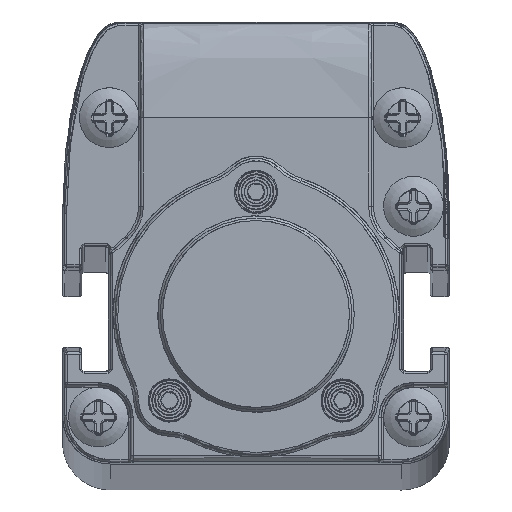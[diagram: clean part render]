
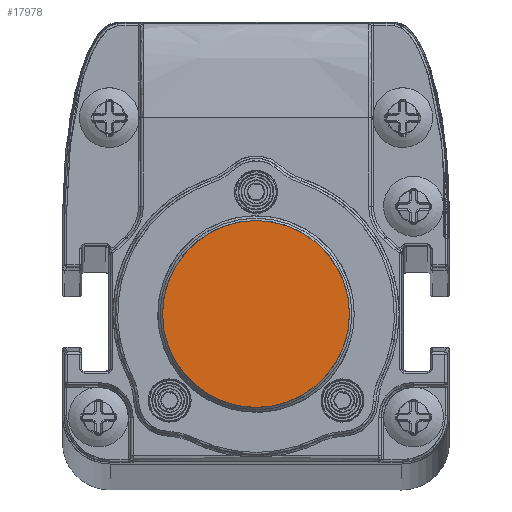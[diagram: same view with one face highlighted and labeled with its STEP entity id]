
A CAD part, top view. The second image highlights one B-rep face of the part: STEP entity #17978.
In plain terms, the highlighted planar face has unit normal (0, 0, 1).
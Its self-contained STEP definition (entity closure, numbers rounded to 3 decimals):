
#15170=B_SPLINE_CURVE_WITH_KNOTS('',3,(#63231,#63232,#63233,#63234,#63235,
#63236,#63237,#63238,#63239,#63240,#63241,#63242,#63243,#63244,#63245,#63246,
#63247,#63248,#63249,#63250,#63251,#63252,#63253,#63254,#63255,#63256,#63257,
#63258,#63259,#63260,#63261,#63262,#63263,#63264,#63265,#63266,#63267,#63268,
#63269,#63270,#63271,#63272,#63273,#63274,#63275,#63276,#63277,#63278,#63279,
#63280,#63281,#63282,#63283,#63284,#63285,#63286,#63287,#63288,#63289,#63290,
#63291,#63292,#63293,#63294,#63295,#63296,#63297,#63298,#63299,#63300,#63301,
#63302,#63303,#63304,#63305,#63306,#63307,#63308,#63309,#63310,#63311,#63312,
#63313,#63314,#63315,#63316,#63317,#63318,#63319,#63320,#63321,#63322,#63323,
#63324,#63325,#63326,#63327,#63328,#63329,#63330,#63331,#63332,#63333),
 .UNSPECIFIED.,.T.,.F.,(1,3,3,3,3,3,3,3,3,3,3,3,3,3,3,3,3,3,3,3,3,3,3,3,
3,3,3,3,3,3,3,3,3,3,3,3,1),(-0.029,0.,0.029,0.059,
0.088,0.118,0.147,0.176,
0.206,0.235,0.265,0.294,
0.324,0.353,0.382,0.412,
0.441,0.471,0.5,0.529,0.559,
0.588,0.618,0.647,0.676,
0.706,0.735,0.765,0.794,
0.824,0.853,0.882,0.912,
0.941,0.971,1.,1.029),.UNSPECIFIED.);
#17978=ADVANCED_FACE('',(#19973),#18876,.T.);
#18876=PLANE('',#43329);
#19973=FACE_OUTER_BOUND('',#21449,.T.);
#21449=EDGE_LOOP('',(#27752));
#27752=ORIENTED_EDGE('',*,*,#36691,.T.);
#31776=VERTEX_POINT('',#63334);
#36691=EDGE_CURVE('',#31776,#31776,#15170,.T.);
#43329=AXIS2_PLACEMENT_3D('',#63335,#47286,#47287);
#47286=DIRECTION('',(0.,0.,1.));
#47287=DIRECTION('',(1.,0.,0.));
#63231=CARTESIAN_POINT('',(7.8,0.,1283.34));
#63232=CARTESIAN_POINT('',(7.8,0.465,1283.34));
#63233=CARTESIAN_POINT('',(7.759,0.925,1283.34));
#63234=CARTESIAN_POINT('',(7.679,1.376,1283.34));
#63235=CARTESIAN_POINT('',(7.638,1.601,1283.34));
#63236=CARTESIAN_POINT('',(7.588,1.825,1283.34));
#63237=CARTESIAN_POINT('',(7.527,2.047,1283.34));
#63238=CARTESIAN_POINT('',(7.466,2.269,1283.34));
#63239=CARTESIAN_POINT('',(7.407,2.458,1283.34));
#63240=CARTESIAN_POINT('',(7.315,2.708,1283.34));
#63241=CARTESIAN_POINT('',(7.129,3.209,1283.34));
#63242=CARTESIAN_POINT('',(6.898,3.683,1283.34));
#63243=CARTESIAN_POINT('',(6.62,4.128,1283.34));
#63244=CARTESIAN_POINT('',(6.343,4.573,1283.34));
#63245=CARTESIAN_POINT('',(6.043,4.965,1283.34));
#63246=CARTESIAN_POINT('',(5.651,5.376,1283.34));
#63247=CARTESIAN_POINT('',(4.868,6.2,1283.34));
#63248=CARTESIAN_POINT('',(3.912,6.837,1283.34));
#63249=CARTESIAN_POINT('',(2.89,7.245,1283.34));
#63250=CARTESIAN_POINT('',(2.378,7.449,1283.34));
#63251=CARTESIAN_POINT('',(1.856,7.597,1283.34));
#63252=CARTESIAN_POINT('',(1.324,7.689,1283.34));
#63253=CARTESIAN_POINT('',(1.058,7.734,1283.34));
#63254=CARTESIAN_POINT('',(0.79,7.766,1283.34));
#63255=CARTESIAN_POINT('',(0.52,7.784,1283.34));
#63256=CARTESIAN_POINT('',(0.249,7.801,1283.34));
#63257=CARTESIAN_POINT('',(-0.055,7.804,1283.34));
#63258=CARTESIAN_POINT('',(-0.3,7.794,1283.34));
#63259=CARTESIAN_POINT('',(-0.79,7.775,1283.34));
#63260=CARTESIAN_POINT('',(-1.271,7.712,1283.34));
#63261=CARTESIAN_POINT('',(-1.742,7.604,1283.34));
#63262=CARTESIAN_POINT('',(-2.213,7.496,1283.34));
#63263=CARTESIAN_POINT('',(-2.713,7.327,1283.34));
#63264=CARTESIAN_POINT('',(-3.123,7.147,1283.34));
#63265=CARTESIAN_POINT('',(-3.534,6.968,1283.34));
#63266=CARTESIAN_POINT('',(-3.924,6.757,1283.34));
#63267=CARTESIAN_POINT('',(-4.293,6.513,1283.34));
#63268=CARTESIAN_POINT('',(-4.477,6.392,1283.34));
#63269=CARTESIAN_POINT('',(-4.656,6.262,1283.34));
#63270=CARTESIAN_POINT('',(-4.83,6.125,1283.34));
#63271=CARTESIAN_POINT('',(-5.004,5.987,1283.34));
#63272=CARTESIAN_POINT('',(-5.15,5.864,1283.34));
#63273=CARTESIAN_POINT('',(-5.337,5.688,1283.34));
#63274=CARTESIAN_POINT('',(-5.712,5.337,1283.34));
#63275=CARTESIAN_POINT('',(-6.047,4.956,1283.34));
#63276=CARTESIAN_POINT('',(-6.341,4.545,1283.34));
#63277=CARTESIAN_POINT('',(-6.635,4.134,1283.34));
#63278=CARTESIAN_POINT('',(-6.869,3.738,1283.34));
#63279=CARTESIAN_POINT('',(-7.102,3.226,1283.34));
#63280=CARTESIAN_POINT('',(-7.567,2.203,1283.34));
#63281=CARTESIAN_POINT('',(-7.8,1.124,1283.34));
#63282=CARTESIAN_POINT('',(-7.8,0.,1283.34));
#63283=CARTESIAN_POINT('',(-7.8,-0.562,1283.34));
#63284=CARTESIAN_POINT('',(-7.742,-1.113,1283.34));
#63285=CARTESIAN_POINT('',(-7.626,-1.651,1283.34));
#63286=CARTESIAN_POINT('',(-7.509,-2.189,1283.34));
#63287=CARTESIAN_POINT('',(-7.314,-2.758,1283.34));
#63288=CARTESIAN_POINT('',(-7.102,-3.226,1283.34));
#63289=CARTESIAN_POINT('',(-6.889,-3.694,1283.34));
#63290=CARTESIAN_POINT('',(-6.636,-4.134,1283.34));
#63291=CARTESIAN_POINT('',(-6.341,-4.544,1283.34));
#63292=CARTESIAN_POINT('',(-6.194,-4.75,1283.34));
#63293=CARTESIAN_POINT('',(-6.037,-4.947,1283.34));
#63294=CARTESIAN_POINT('',(-5.87,-5.138,1283.34));
#63295=CARTESIAN_POINT('',(-5.702,-5.329,1283.34));
#63296=CARTESIAN_POINT('',(-5.5,-5.535,1283.34));
#63297=CARTESIAN_POINT('',(-5.337,-5.688,1283.34));
#63298=CARTESIAN_POINT('',(-5.01,-5.995,1283.34));
#63299=CARTESIAN_POINT('',(-4.662,-6.27,1283.34));
#63300=CARTESIAN_POINT('',(-4.293,-6.513,1283.34));
#63301=CARTESIAN_POINT('',(-3.924,-6.756,1283.34));
#63302=CARTESIAN_POINT('',(-3.573,-6.951,1283.34));
#63303=CARTESIAN_POINT('',(-3.123,-7.147,1283.34));
#63304=CARTESIAN_POINT('',(-2.674,-7.344,1283.34));
#63305=CARTESIAN_POINT('',(-2.213,-7.496,1283.34));
#63306=CARTESIAN_POINT('',(-1.743,-7.604,1283.34));
#63307=CARTESIAN_POINT('',(-1.507,-7.658,1283.34));
#63308=CARTESIAN_POINT('',(-1.27,-7.701,1283.34));
#63309=CARTESIAN_POINT('',(-1.029,-7.732,1283.34));
#63310=CARTESIAN_POINT('',(-0.789,-7.764,1283.34));
#63311=CARTESIAN_POINT('',(-0.575,-7.784,1283.34));
#63312=CARTESIAN_POINT('',(-0.3,-7.794,1283.34));
#63313=CARTESIAN_POINT('',(0.801,-7.837,1283.34));
#63314=CARTESIAN_POINT('',(1.834,-7.666,1283.34));
#63315=CARTESIAN_POINT('',(2.89,-7.245,1283.34));
#63316=CARTESIAN_POINT('',(3.417,-7.035,1283.34));
#63317=CARTESIAN_POINT('',(3.912,-6.774,1283.34));
#63318=CARTESIAN_POINT('',(4.372,-6.462,1283.34));
#63319=CARTESIAN_POINT('',(4.833,-6.15,1283.34));
#63320=CARTESIAN_POINT('',(5.283,-5.763,1283.34));
#63321=CARTESIAN_POINT('',(5.651,-5.376,1283.34));
#63322=CARTESIAN_POINT('',(6.019,-4.989,1283.34));
#63323=CARTESIAN_POINT('',(6.342,-4.573,1283.34));
#63324=CARTESIAN_POINT('',(6.62,-4.128,1283.34));
#63325=CARTESIAN_POINT('',(6.759,-3.906,1283.34));
#63326=CARTESIAN_POINT('',(6.886,-3.676,1283.34));
#63327=CARTESIAN_POINT('',(7.002,-3.44,1283.34));
#63328=CARTESIAN_POINT('',(7.117,-3.203,1283.34));
#63329=CARTESIAN_POINT('',(7.234,-2.926,1283.34));
#63330=CARTESIAN_POINT('',(7.315,-2.708,1283.34));
#63331=CARTESIAN_POINT('',(7.638,-1.835,1283.34));
#63332=CARTESIAN_POINT('',(7.8,-0.933,1283.34));
#63333=CARTESIAN_POINT('',(7.8,0.,1283.34));
#63334=CARTESIAN_POINT('',(7.8,0.,1283.34));
#63335=CARTESIAN_POINT('',(-8.9,-8.81,1283.34));
